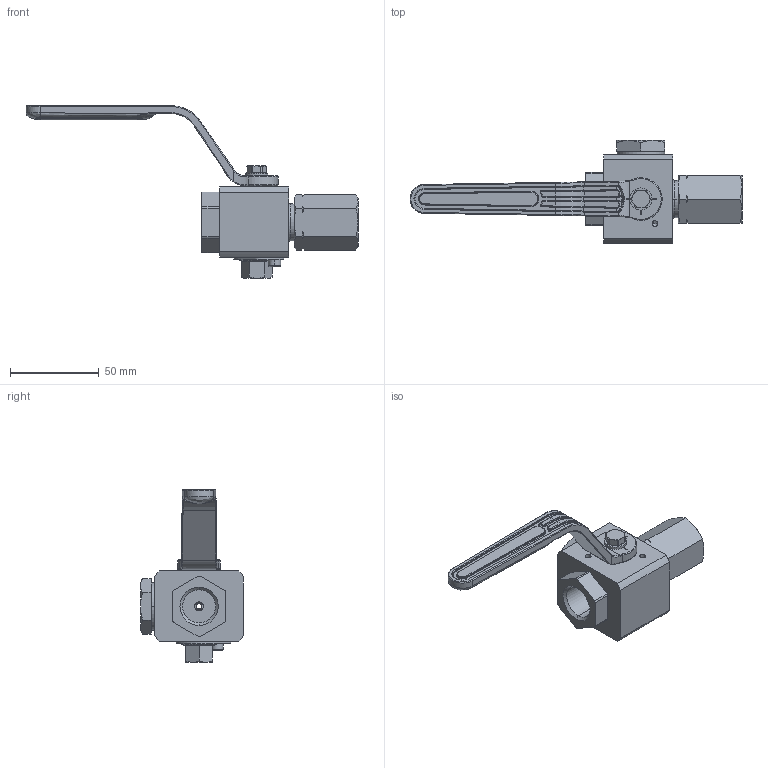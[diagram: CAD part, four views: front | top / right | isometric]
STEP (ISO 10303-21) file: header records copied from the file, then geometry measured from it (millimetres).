
FILE_DESCRIPTION((''),'2;1');
FILE_NAME('AB-MABA-012_SW0001','2023-04-13T09:00:47',('jeitlers'),('KLINGER'),'CREO PARAMETRIC BY PTC INC, 2020184','CREO PARAMETRIC BY PTC INC, 2020184','');
FILE_SCHEMA(('AUTOMOTIVE_DESIGN { 1 0 10303 214 1 1 1 1 }'));
Length unit declared in the file: millimetre
Products named in the file (1): AB-MABA-012_SW0001
Bounding box: 187 x 58 x 97.2 mm (x, y, z)
Volume: 116015.6 mm3; surface area: 35481 mm2
Topology: 2 solids, 2 shells, 562 faces, 1352 edges, 810 vertices
Faces by surface type: cylinder 178, plane 142, bspline 109, cone 82, torus 40, sphere 6, extrusion 5
Entity records: 33743 total; most frequent: CARTESIAN_POINT 20918, ORIENTED_EDGE 2684, DIRECTION 2373, EDGE_CURVE 1342, AXIS2_PLACEMENT_3D 948, VERTEX_POINT 810, EDGE_LOOP 606, FACE_OUTER_BOUND 562
